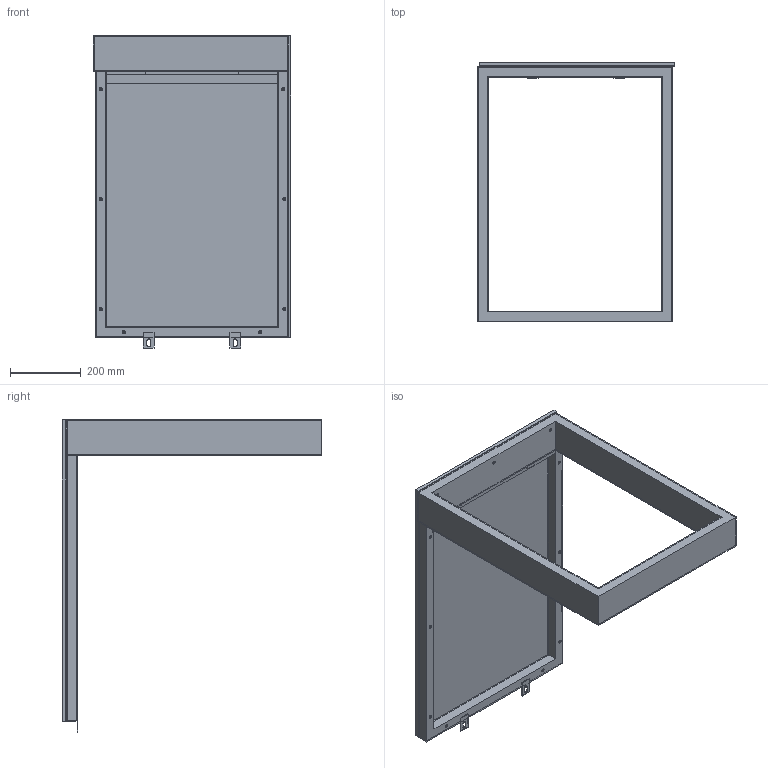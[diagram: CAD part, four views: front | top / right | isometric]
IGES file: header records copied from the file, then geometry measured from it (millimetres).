
Start section: SolidWorks IGES file using NURBS representation for surfaces
Global section: file name: G:\VICCARBE\PRODUCTOS\12-LEG-IN\04-MODELADOS (PLANOS)\SOLIDWORKS\LEG_IN 2011\ENSAMBLAJES\Mesas 3D\IGES\ACCESORIES\VICCARBE_LEB85.IGS; native system: SolidWorks 2009; preprocessor: SolidWorks 2009; author: RUBEN; date: 111024.104612; units: millimetre
Bounding box: 556 x 732 x 880 mm (x, y, z)
Surface area: 2684670 mm2 (no closed solid volume)
Topology: 0 solids, 0 shells, 201 faces, 2456 edges, 2434 vertices
Faces by surface type: bspline 201
